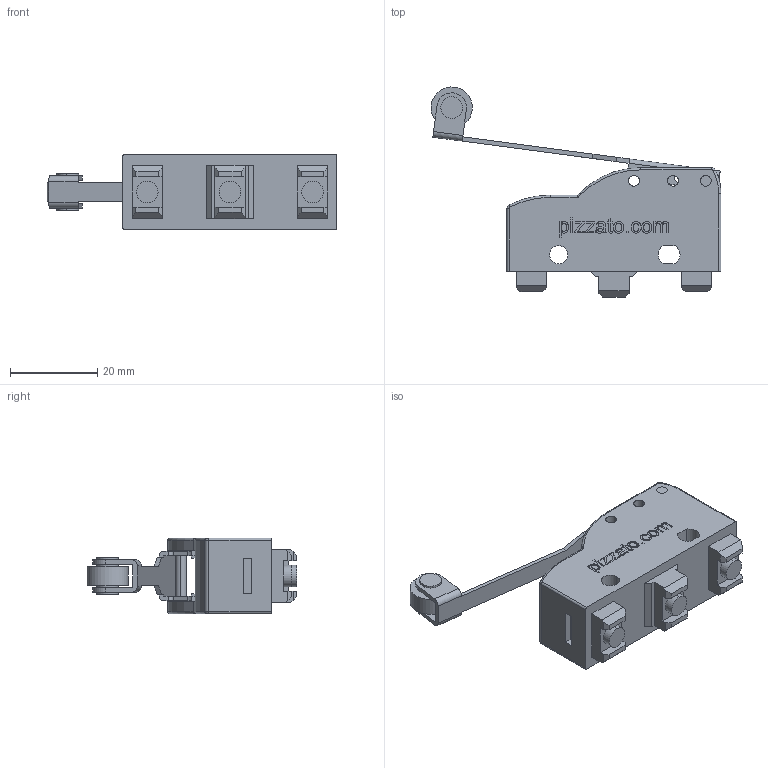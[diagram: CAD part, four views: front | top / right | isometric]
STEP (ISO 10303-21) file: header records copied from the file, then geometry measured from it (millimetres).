
FILE_DESCRIPTION (( 'STEP AP203' ), '1' );
FILE_NAME ('Pizzato_MK_VxxF53.STEP', '2009-02-18T16:03:30', ( 'mario' ), ( '' ), 'SwSTEP 2.0', 'SolidWorks 2009', '' );
FILE_SCHEMA (( 'CONFIG_CONTROL_DESIGN' ));
Length unit declared in the file: millimetre
Products named in the file (4): Pizzato_Leva_MK53_MK53; Pizzato_Custodia_MK_MKV_Leva; Pizzato_MK_VxxF53; Pizzato_Perno Leva
Assembly tree (3 placements, depth 2):
  Pizzato_MK_VxxF53
    Pizzato_Leva_MK53_MK53
    Pizzato_Custodia_MK_MKV_Leva
    Pizzato_Perno Leva
Bounding box: 66.64 x 48.26 x 17.4 mm (x, y, z)
Volume: 17385.3 mm3; surface area: 7943.4 mm2
Topology: 3 solids, 3 shells, 492 faces, 1310 edges, 866 vertices
Faces by surface type: plane 310, cylinder 103, bspline 69, torus 10
Entity records: 19032 total; most frequent: CARTESIAN_POINT 6573, ORIENTED_EDGE 2620, DIRECTION 2246, EDGE_CURVE 1310, VECTOR 952, LINE 952, VERTEX_POINT 866, AXIS2_PLACEMENT_3D 647
